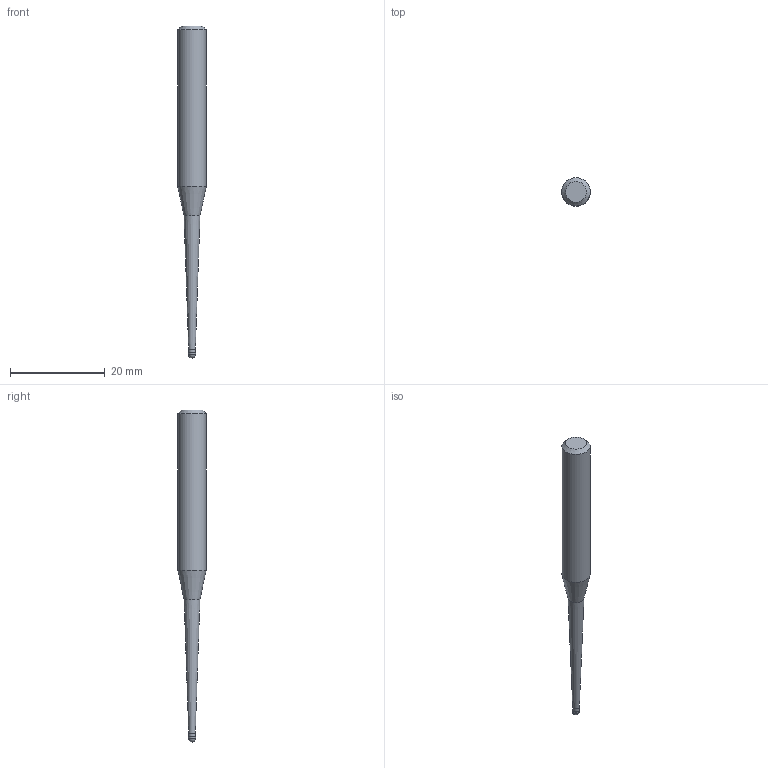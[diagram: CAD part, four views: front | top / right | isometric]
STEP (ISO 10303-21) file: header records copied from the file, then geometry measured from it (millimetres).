
FILE_DESCRIPTION((''),'2;1');
FILE_NAME('C:\Users\nsx150\AppData\Local\Temp\Mastercam 2021\E0ENTZRV18\TEMP.step','2021-09-02T09:56:36',(''),(''),'STEP Write','Mastercam 2021 ... CNC Software, Inc.','');
FILE_SCHEMA(('AUTOMOTIVE_DESIGN'));
Length unit declared in the file: millimetre
Products named in the file (1): None
Bounding box: 6 x 6 x 70 mm (x, y, z)
Volume: 1195.1 mm3; surface area: 971.4 mm2
Topology: 2 solids, 2 shells, 10 faces, 16 edges, 9 vertices
Faces by surface type: plane 3, cylinder 3, cone 3, sphere 1
Full cylindrical faces by diameter (mm): 1.39 x1, 1.5 x1, 6 x1
Entity records: 232 total; most frequent: DIRECTION 40, CARTESIAN_POINT 28, AXIS2_PLACEMENT_3D 20, ORIENTED_EDGE 16, EDGE_LOOP 16, STYLED_ITEM 13, ADVANCED_FACE 10, FACE_BOUND 9
